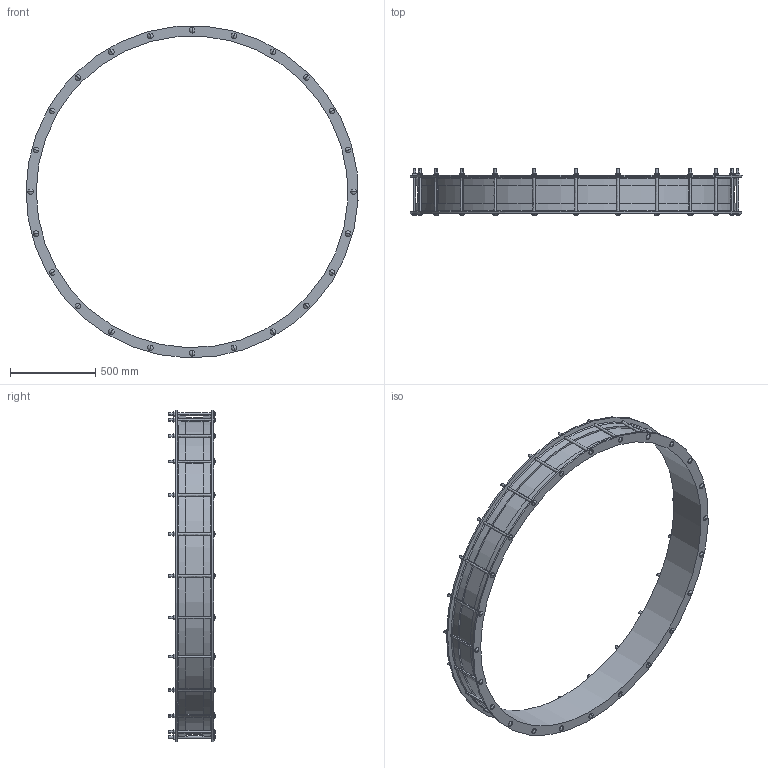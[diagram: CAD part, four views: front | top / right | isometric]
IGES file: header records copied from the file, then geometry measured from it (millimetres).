
Start section:  PTC IGES file: VJC_1829.igs
Global section: file name: VJC_1829.igs; native system: Creo Parametric by PTC Inc.; preprocessor: 2016130; author: mfairey; organization: Unknown; date: 20181206.155533; units: millimetre
Bounding box: 1952.73 x 275.68 x 1950.93 mm (x, y, z)
Surface area: 4057223.8 mm2 (no closed solid volume)
Topology: 0 solids, 0 shells, 568 faces, 3088 edges, 3040 vertices
Faces by surface type: revolution 348, bspline 220
